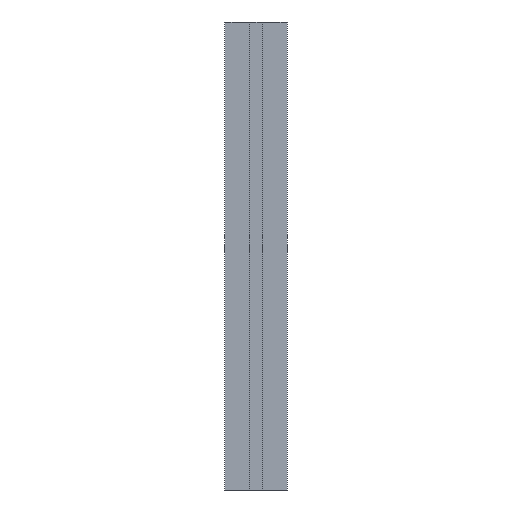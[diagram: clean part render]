
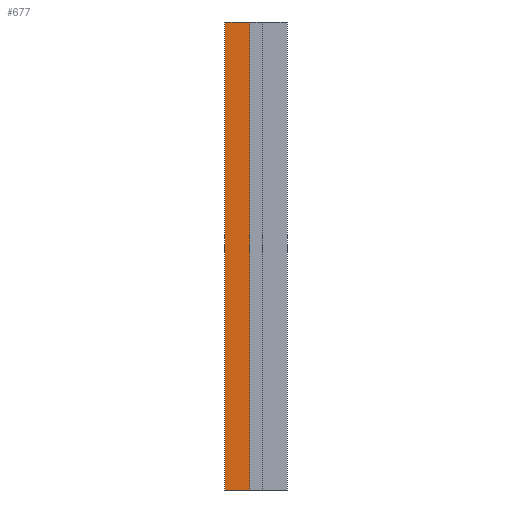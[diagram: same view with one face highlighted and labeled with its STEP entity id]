
A CAD part, left-side view. The second image highlights one B-rep face of the part: STEP entity #677.
In plain terms, the highlighted planar face has unit normal (-1, 0, 0).
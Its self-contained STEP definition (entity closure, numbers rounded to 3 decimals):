
#80 = CARTESIAN_POINT ( 'NONE',  ( 4806.876, 1535.75, 300. ) ) ;
#494 = FACE_OUTER_BOUND ( 'NONE', #2157, .T. ) ;
#499 = VERTEX_POINT ( 'NONE', #80 ) ;
#600 = ORIENTED_EDGE ( 'NONE', *, *, #1365, .F. ) ;
#677 = ADVANCED_FACE ( 'NONE', ( #494 ), #2198, .F. ) ;
#805 = DIRECTION ( 'NONE',  ( 0., 0., -1. ) ) ;
#808 = CARTESIAN_POINT ( 'NONE',  ( 4806.876, 1535.75, 300. ) ) ;
#821 = LINE ( 'NONE', #808, #1090 ) ;
#846 = DIRECTION ( 'NONE',  ( 0., 0., -1. ) ) ;
#852 = CARTESIAN_POINT ( 'NONE',  ( 4806.876, 1519.9, 300. ) ) ;
#853 = LINE ( 'NONE', #852, #1168 ) ;
#871 = VERTEX_POINT ( 'NONE', #1939 ) ;
#987 = EDGE_CURVE ( 'NONE', #1323, #1294, #1788, .T. ) ;
#1000 = ORIENTED_EDGE ( 'NONE', *, *, #1706, .F. ) ;
#1090 = VECTOR ( 'NONE', #805, 1000. ) ;
#1100 = DIRECTION ( 'NONE',  ( 0., -1., 0. ) ) ;
#1168 = VECTOR ( 'NONE', #846, 1000. ) ;
#1235 = CARTESIAN_POINT ( 'NONE',  ( 4806.876, 1535.75, 300. ) ) ;
#1241 = LINE ( 'NONE', #1235, #2186 ) ;
#1294 = VERTEX_POINT ( 'NONE', #1379 ) ;
#1316 = CARTESIAN_POINT ( 'NONE',  ( 4806.876, 1535.75, 0. ) ) ;
#1323 = VERTEX_POINT ( 'NONE', #1316 ) ;
#1365 = EDGE_CURVE ( 'NONE', #499, #871, #1241, .T. ) ;
#1379 = CARTESIAN_POINT ( 'NONE',  ( 4806.876, 1519.9, 0. ) ) ;
#1411 = ORIENTED_EDGE ( 'NONE', *, *, #1730, .T. ) ;
#1650 = ORIENTED_EDGE ( 'NONE', *, *, #987, .T. ) ;
#1706 = EDGE_CURVE ( 'NONE', #871, #1294, #853, .T. ) ;
#1717 = VECTOR ( 'NONE', #1783, 1000. ) ;
#1730 = EDGE_CURVE ( 'NONE', #499, #1323, #821, .T. ) ;
#1783 = DIRECTION ( 'NONE',  ( 0., -1., 0. ) ) ;
#1787 = CARTESIAN_POINT ( 'NONE',  ( 4806.876, 1535.75, 0. ) ) ;
#1788 = LINE ( 'NONE', #1787, #1717 ) ;
#1939 = CARTESIAN_POINT ( 'NONE',  ( 4806.876, 1519.9, 300. ) ) ;
#2157 = EDGE_LOOP ( 'NONE', ( #1650, #1000, #600, #1411 ) ) ;
#2186 = VECTOR ( 'NONE', #1100, 1000. ) ;
#2193 = DIRECTION ( 'NONE',  ( 0., 0., -1. ) ) ;
#2195 = DIRECTION ( 'NONE',  ( 1., 0., 0. ) ) ;
#2196 = CARTESIAN_POINT ( 'NONE',  ( 4806.876, 1535.75, 300. ) ) ;
#2198 = PLANE ( 'NONE',  #2255 ) ;
#2255 = AXIS2_PLACEMENT_3D ( 'NONE', #2196, #2195, #2193 ) ;
